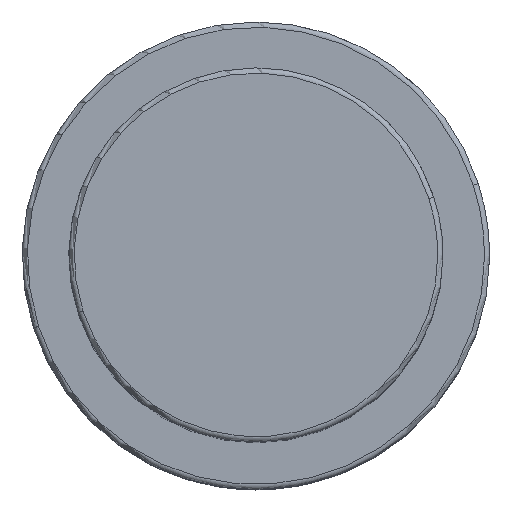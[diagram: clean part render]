
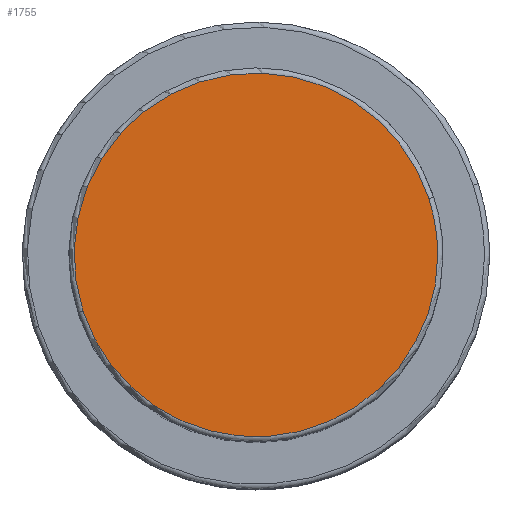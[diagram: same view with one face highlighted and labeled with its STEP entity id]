
A CAD part, top view. The second image highlights one B-rep face of the part: STEP entity #1755.
In plain terms, the highlighted planar face has unit normal (0, 0, 1).
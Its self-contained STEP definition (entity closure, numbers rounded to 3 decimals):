
#1688=CARTESIAN_POINT('',(16.643,5.408,73.0));
#1689=VERTEX_POINT('',#1688);
#1707=CARTESIAN_POINT('',(-16.643,-5.408,73.0));
#1708=VERTEX_POINT('',#1707);
#1716=CARTESIAN_POINT('',(0.0,0.0,73.0));
#1717=DIRECTION('',(0.0,0.0,1.0));
#1718=DIRECTION('',(1.0,0.0,0.0));
#1719=AXIS2_PLACEMENT_3D('',#1716,#1717,#1718);
#1720=CIRCLE('',#1719,17.5);
#1721=EDGE_CURVE('no 1909',#1689,#1708,#1720,.T.);
#1731=CARTESIAN_POINT('',(17.5,0.0,73.0));
#1732=VERTEX_POINT('',#1731);
#1733=CARTESIAN_POINT('',(0.0,0.0,73.0));
#1734=DIRECTION('',(0.0,0.0,1.0));
#1735=DIRECTION('',(1.0,0.0,0.0));
#1736=AXIS2_PLACEMENT_3D('',#1733,#1734,#1735);
#1737=CIRCLE('',#1736,17.5);
#1738=EDGE_CURVE('no 1918',#1732,#1689,#1737,.T.);
#1739=ORIENTED_EDGE('',*,*,#1738,.T.);
#1740=ORIENTED_EDGE('',*,*,#1721,.T.);
#1741=CARTESIAN_POINT('',(0.0,0.0,73.0));
#1742=DIRECTION('',(0.0,0.0,1.0));
#1743=DIRECTION('',(1.0,0.0,0.0));
#1744=AXIS2_PLACEMENT_3D('',#1741,#1742,#1743);
#1745=CIRCLE('',#1744,17.5);
#1746=EDGE_CURVE('no 1924',#1708,#1732,#1745,.T.);
#1747=ORIENTED_EDGE('',*,*,#1746,.T.);
#1748=EDGE_LOOP('',(#1739,#1740,#1747));
#1749=FACE_OUTER_BOUND('',#1748,.T.);
#1750=CARTESIAN_POINT('',(0.0,0.0,73.0));
#1751=DIRECTION('',(0.0,0.0,1.0));
#1752=DIRECTION('',(1.0,0.0,0.0));
#1753=AXIS2_PLACEMENT_3D('',#1750,#1751,#1752);
#1754=PLANE('',#1753);
#1755=ADVANCED_FACE('no 1911',(#1749),#1754,.T.);
